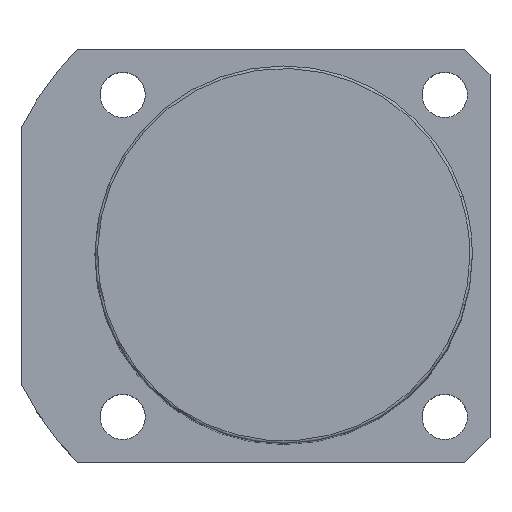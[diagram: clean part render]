
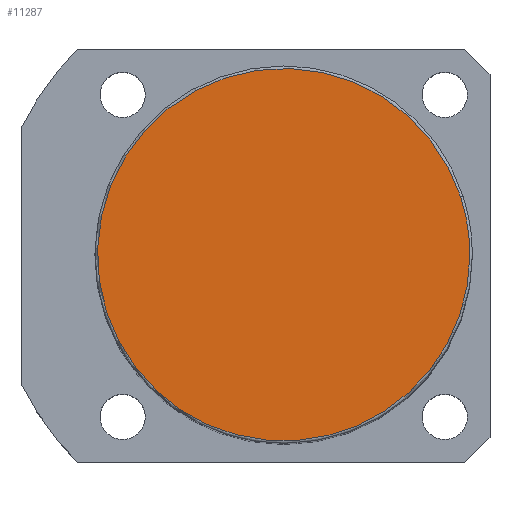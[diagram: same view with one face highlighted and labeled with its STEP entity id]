
A CAD part, top view. The second image highlights one B-rep face of the part: STEP entity #11287.
In plain terms, the highlighted planar face has unit normal (0, 0, 1).
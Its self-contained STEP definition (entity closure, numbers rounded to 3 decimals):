
#11253=CARTESIAN_POINT('',(37.0,0.0,153.0));
#11254=VERTEX_POINT('',#11253);
#11255=CARTESIAN_POINT('',(35.189,11.434,153.0));
#11256=VERTEX_POINT('',#11255);
#11257=CARTESIAN_POINT('',(0.0,0.0,153.0));
#11258=DIRECTION('',(0.0,0.0,1.0));
#11259=DIRECTION('',(1.0,0.0,0.0));
#11260=AXIS2_PLACEMENT_3D('',#11257,#11258,#11259);
#11261=CIRCLE('',#11260,37.0);
#11262=EDGE_CURVE('no 5160',#11254,#11256,#11261,.T.);
#11263=ORIENTED_EDGE('',*,*,#11262,.T.);
#11264=CARTESIAN_POINT('',(-35.189,-11.434,153.0));
#11265=VERTEX_POINT('',#11264);
#11266=CARTESIAN_POINT('',(0.0,0.0,153.0));
#11267=DIRECTION('',(0.0,0.0,1.0));
#11268=DIRECTION('',(1.0,0.0,0.0));
#11269=AXIS2_PLACEMENT_3D('',#11266,#11267,#11268);
#11270=CIRCLE('',#11269,37.0);
#11271=EDGE_CURVE('no 5166',#11256,#11265,#11270,.T.);
#11272=ORIENTED_EDGE('',*,*,#11271,.T.);
#11273=CARTESIAN_POINT('',(0.0,0.0,153.0));
#11274=DIRECTION('',(0.0,0.0,1.0));
#11275=DIRECTION('',(1.0,0.0,0.0));
#11276=AXIS2_PLACEMENT_3D('',#11273,#11274,#11275);
#11277=CIRCLE('',#11276,37.0);
#11278=EDGE_CURVE('no 5170',#11265,#11254,#11277,.T.);
#11279=ORIENTED_EDGE('',*,*,#11278,.T.);
#11280=EDGE_LOOP('',(#11263,#11272,#11279));
#11281=FACE_OUTER_BOUND('',#11280,.T.);
#11282=CARTESIAN_POINT('',(0.0,0.0,153.0));
#11283=DIRECTION('',(0.0,0.0,1.0));
#11284=DIRECTION('',(1.0,0.0,0.0));
#11285=AXIS2_PLACEMENT_3D('',#11282,#11283,#11284);
#11286=PLANE('',#11285);
#11287=ADVANCED_FACE('no 5151',(#11281),#11286,.T.);
